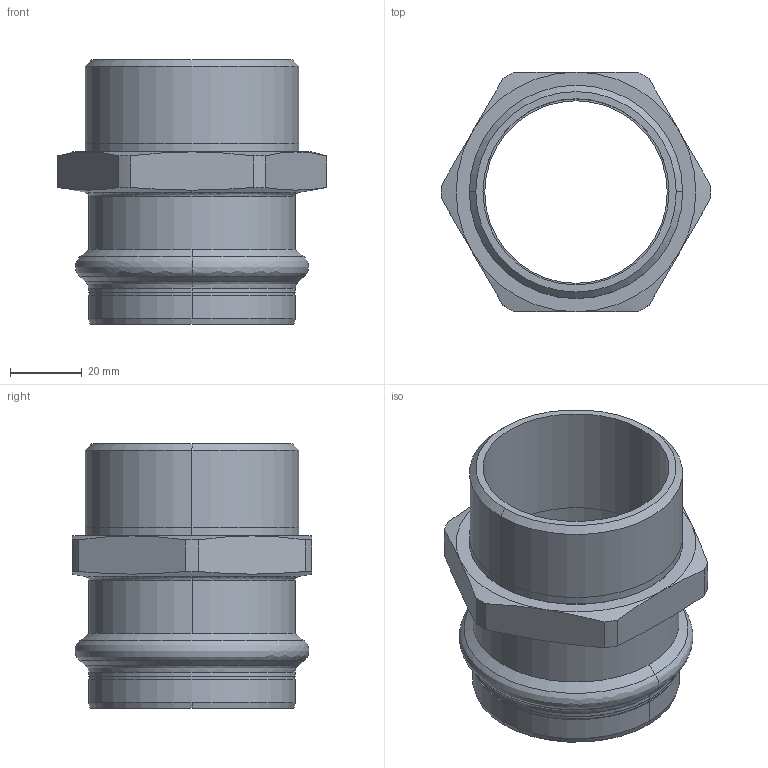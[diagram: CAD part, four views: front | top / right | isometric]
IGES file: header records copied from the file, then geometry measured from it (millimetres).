
Start section: Elysium IGES Interface
Global section: file name: C:\3d modellen sudo\C-Pr VP\SP8243GV\8243GVW542.igs; native system: CoCreate Modeling 17.00A  17-Jun-2010; preprocessor: CoCreate IGES_3D V2.2; author: Unknown; organization: Unknown; date: 20130305.110006; units: millimetre
Bounding box: 75.29 x 67 x 73.82 mm (x, y, z)
Volume: 50951 mm3; surface area: 30546.5 mm2
Topology: 1 solids, 1 shells, 73 faces, 174 edges, 108 vertices
Faces by surface type: bspline 73
